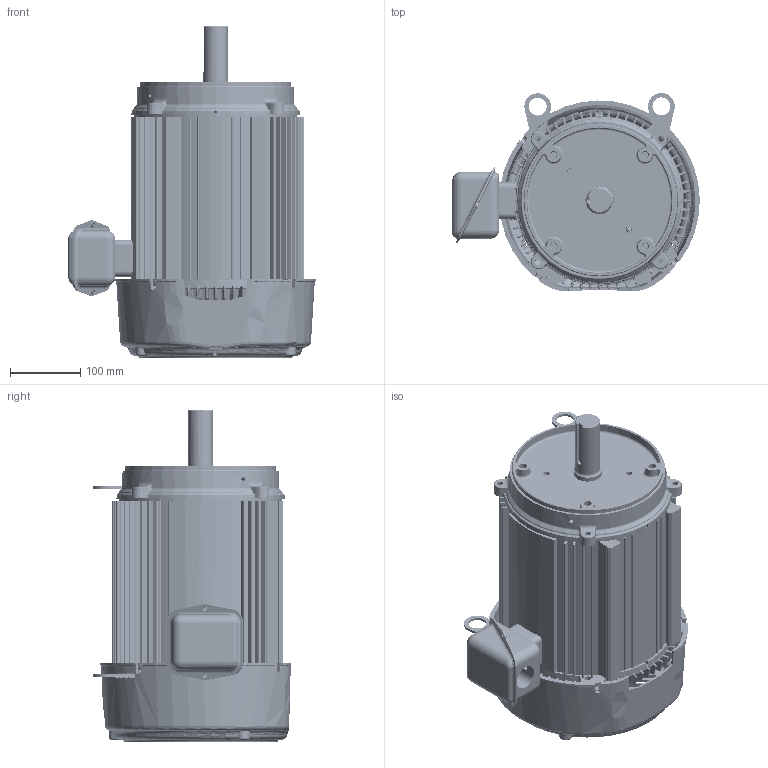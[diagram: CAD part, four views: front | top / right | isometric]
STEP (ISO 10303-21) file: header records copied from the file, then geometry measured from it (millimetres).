
FILE_DESCRIPTION((''),'2;1');
FILE_NAME('STD_CFACE_ASM','2013-03-19T',('emd2341'),('Nidec Motor Corporation'),'PRO/ENGINEER BY PARAMETRIC TECHNOLOGY CORPORATION, 2010140','PRO/ENGINEER BY PARAMETRIC TECHNOLOGY CORPORATION, 2010140','');
FILE_SCHEMA(('CONFIG_CONTROL_DESIGN'));
Length unit declared in the file: inch
Products named in the file (15): 0392315_AF0; 0390920; 0375083-BKT_AF1; 0361252_AF0; 0375084_ASM; 0362111; 0390408; 0380744-BKT_AF0; 0298013_AF0; 0380745_ASM; 0345787; 0367912; 0390417; 0376890; STD_CFACE_ASM
Assembly tree (15 placements, depth 3):
  STD_CFACE_ASM
    0392315_AF0
    0390920
    0375084_ASM
      0375083-BKT_AF1
      0361252_AF0
    0362111
    0390408
    0380745_ASM
      0380744-BKT_AF0
      0298013_AF0
    0345787
    0367912
    0390417
    0376890  x2
Bounding box: 352.79 x 281.68 x 473.06 mm (x, y, z)
Volume: 3437440.9 mm3; surface area: 1371343.6 mm2
Topology: 15 solids, 15 shells, 5486 faces, 13171 edges, 7689 vertices
Faces by surface type: bspline 2455, cylinder 1042, plane 1023, torus 476, cone 243, sphere 223, extrusion 24
Entity records: 284947 total; most frequent: CARTESIAN_POINT 175943, ORIENTED_EDGE 26284, DIRECTION 18181, EDGE_CURVE 13142, AXIS2_PLACEMENT_3D 7729, VERTEX_POINT 7673, B_SPLINE_CURVE_WITH_KNOTS 5769, EDGE_LOOP 5645
